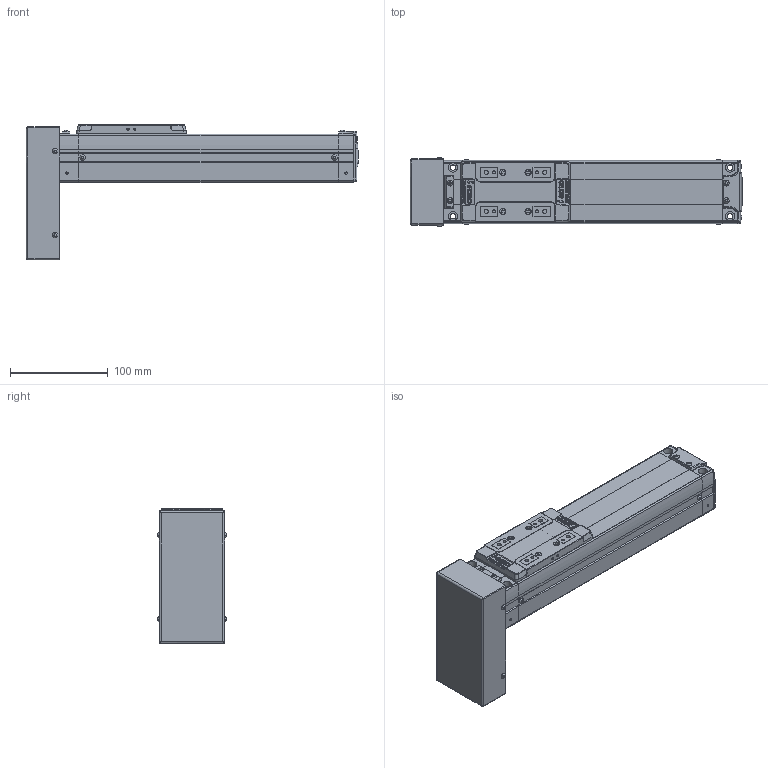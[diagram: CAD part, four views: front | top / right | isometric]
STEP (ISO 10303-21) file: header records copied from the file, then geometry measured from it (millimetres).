
FILE_DESCRIPTION(('STEP AP214'),'1');
FILE_NAME('Z:/Web/3D/SAN65/STP/SAN65ㅁㅁ-150PB.stp','2012-06-14T04:01:25',(' '),(' '),'Spatial InterOp 3D',' ',' ');
FILE_SCHEMA(('automotive_design'));
Length unit declared in the file: metre
Products named in the file (34): SAN65__-150; BODY-SAN65; REAR-SAN65; RRCV-SAN65; 스크루 : Round - M3.0 x 6.0; FRONT-SAN65; SHAFT-SAN65; RN8 x 0.75; SSFX-SAN65; SLIDE-SAN65; SLCV-SAN65; 스크루 : Countersunk - M3.0 x 6.0; ____198; PB; BTCV-SAN65; M3.0 x 6.0
Assembly tree (33 placements, depth 4):
  ____198
    SAN65__-150
      BODY-SAN65
      REAR-SAN65
        REAR-SAN65
        RRCV-SAN65
        스크루 : Round - M3.0 x 6.0
        스크루 : Round - M3.0 x 6.0
        스크루 : Round - M3.0 x 6.0
        스크루 : Round - M3.0 x 6.0
        스크루 : Round - M3.0 x 6.0
        스크루 : Round - M3.0 x 6.0
      FRONT-SAN65
        FRONT-SAN65
        SHAFT-SAN65
        RN8 x 0.75
        SSFX-SAN65
        스크루 : Round - M3.0 x 6.0
        스크루 : Round - M3.0 x 6.0
        스크루 : Round - M3.0 x 6.0
        스크루 : Round - M3.0 x 6.0
      SLIDE-SAN65
        SLIDE-SAN65
        SLCV-SAN65
        스크루 : Countersunk - M3.0 x 6.0
        스크루 : Countersunk - M3.0 x 6.0
        스크루 : Countersunk - M3.0 x 6.0
        스크루 : Countersunk - M3.0 x 6.0
    PB
      BTCV-SAN65
      M3.0 x 6.0
      M3.0 x 6.0
      M3.0 x 6.0
      M3.0 x 6.0
Bounding box: 340.15 x 71.13 x 138.5 mm (x, y, z)
Volume: 1291192.3 mm3; surface area: 180538.6 mm2
Topology: 28 solids, 28 shells, 1444 faces, 3694 edges, 2404 vertices
Faces by surface type: plane 891, cylinder 408, cone 71, bspline 30, sphere 26, torus 15, extrusion 3
Full cylindrical faces by diameter (mm): 0.571 x2, 0.706 x1, 1.727 x2, 2.132 x1, 2.2 x4, 2.5 x9, 2.528 x4, 3 x6, 3.121 x2, 3.3 x4, 3.4 x8, 3.5 x6, 4.2 x18, 4.849 x4, 5 x3, 5.5 x4, 5.987 x2, 6 x6, 6.35 x1, 7 x1, 8 x4, 9.5 x4, 13 x1, 15 x1, 19 x1, 26 x1, 38.1 x1
Entity records: 59196 total; most frequent: CARTESIAN_POINT 12260, DIRECTION 7259, ORIENTED_EDGE 6868, EDGE_CURVE 3434, AXIS2_PLACEMENT_3D 2465, VERTEX_POINT 2350, VECTOR 2329, LINE 2326
